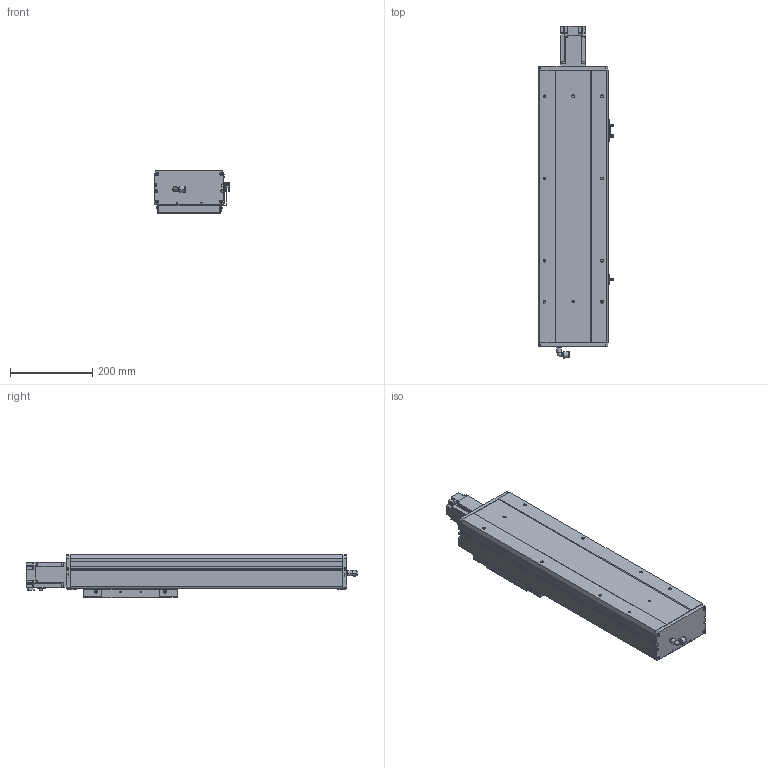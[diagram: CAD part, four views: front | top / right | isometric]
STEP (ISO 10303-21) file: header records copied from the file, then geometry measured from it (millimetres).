
FILE_DESCRIPTION (( 'STEP AP203' ), '1' );
FILE_NAME ('7.STEP', '2021-01-06T00:57:44', ( '' ), ( '' ), 'SwSTEP 2.0', 'SolidWorks 2016', '' );
FILE_SCHEMA (( 'CONFIG_CONTROL_DESIGN' ));
Length unit declared in the file: millimetre
Products named in the file (9): 7; BCH17-BC-10; BCH17-BC-02; BCH17-BC-菁釱; BCH17-BC-HZ; BCH17-BC-01; BCH17-BC-03; BCH17-BC-04; BCH17-BC-M40
Assembly tree (11 placements, depth 2):
  7
    BCH17-BC-菁釱
    BCH17-BC-01
    BCH17-BC-03  x2
    BCH17-BC-04  x3
    BCH17-BC-10
    BCH17-BC-HZ
    BCH17-BC-02
    BCH17-BC-M40
Bounding box: 183.7 x 808.23 x 107 mm (x, y, z)
Volume: 5294168.9 mm3; surface area: 918789.7 mm2
Topology: 18 solids, 18 shells, 1366 faces, 3633 edges, 2319 vertices
Faces by surface type: plane 834, cylinder 420, cone 90, sphere 12, bspline 8, torus 2
Entity records: 36200 total; most frequent: CARTESIAN_POINT 7686, ORIENTED_EDGE 5786, DIRECTION 5591, EDGE_CURVE 2893, LINE 1887, VECTOR 1887, VERTEX_POINT 1867, AXIS2_PLACEMENT_3D 1852
